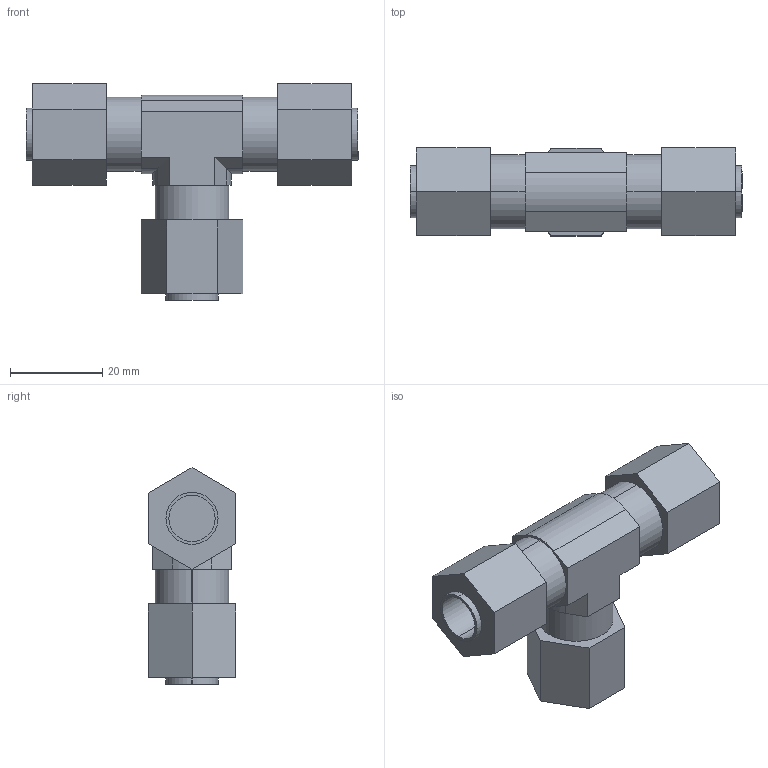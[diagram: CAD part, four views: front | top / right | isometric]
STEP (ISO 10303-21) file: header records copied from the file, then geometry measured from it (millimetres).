
FILE_DESCRIPTION(/* description */ ('SolidWorks IGES FILE using analytic representation for surfaces '),/* implementation_level */ '2;1');
FILE_NAME(/* name */ 'FZ-12-10.step',/* time_stamp */ '2025-08-14T11:51:58+09:00',/* author */ (''),/* organization */ (''),/* preprocessor_version */ 'ST-DEVELOPER v20.1',/* originating_system */ 'Autodesk Translation Framework v14.10.0.0',/* authorisation */ '');
FILE_SCHEMA (('AUTOMOTIVE_DESIGN { 1 0 10303 214 3 1 1 }'));
Length unit declared in the file: millimetre
Products named in the file (2): (未保存); KTA10-000E
Assembly tree (1 placements, depth 2):
  (未保存)
    KTA10-000E
Bounding box: 71.8 x 19 x 46.87 mm (x, y, z)
Surface area: 8968.1 mm2 (no closed solid volume)
Topology: 0 solids, 70 shells, 70 faces, 308 edges, 308 vertices
Faces by surface type: plane 45, cylinder 25
Entity records: 3577 total; most frequent: CARTESIAN_POINT 893, DIRECTION 514, VERTEX_POINT 308, EDGE_CURVE 308, ORIENTED_EDGE 308, LINE 232, VECTOR 232, AXIS2_PLACEMENT_3D 141
